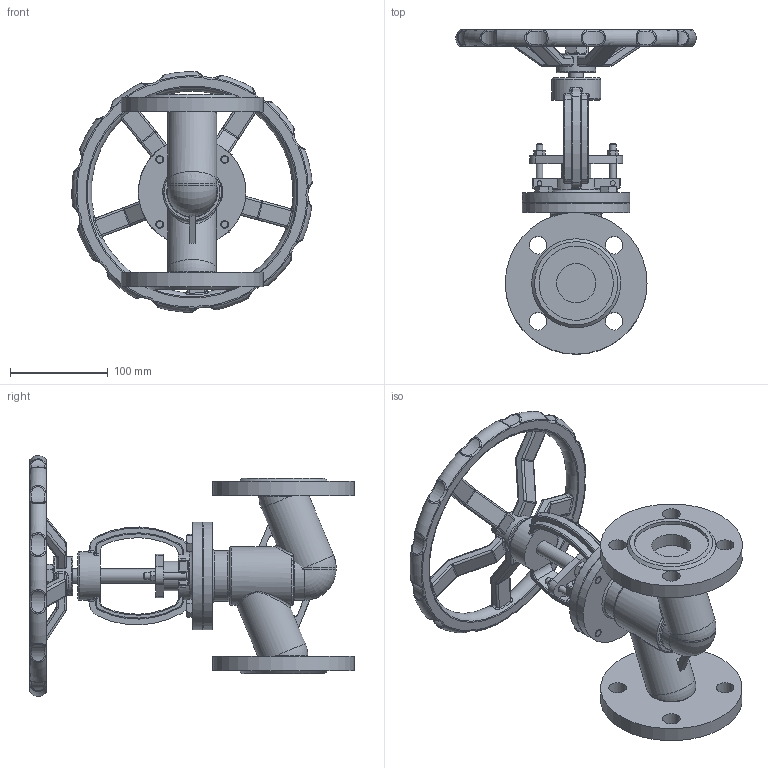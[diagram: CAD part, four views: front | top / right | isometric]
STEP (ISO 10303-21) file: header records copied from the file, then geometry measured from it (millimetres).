
FILE_DESCRIPTION(('STEP AP203'), '1');
FILE_NAME('VSO3131M-F-S 孰囡囗 玎镱痦 DN.ru 捏40 畜40', '2026-04-14T17:46:22', ('R2D2'), (''), 'C3D Converter', 'C3D Toolkit', '');
FILE_SCHEMA(('CONFIG_CONTROL_DESIGN'));
Length unit declared in the file: millimetre
Products named in the file (1): VSO3131M-F-S
Bounding box: 245.86 x 331.92 x 246.25 mm (x, y, z)
Volume: 1650442.5 mm3; surface area: 263963.7 mm2
Topology: 1 solids, 1 shells, 1017 faces, 2439 edges, 1454 vertices
Faces by surface type: plane 292, cylinder 241, torus 150, extrusion 117, bspline 74, sphere 72, cone 71
Full cylindrical faces by diameter (mm): 5 x8, 7 x4, 8 x6, 15 x3, 16 x4, 18 x9, 30 x1, 40 x3, 50 x5, 52 x1, 60 x1, 76 x2, 110 x2, 145 x2
Entity records: 64720 total; most frequent: CARTESIAN_POINT 34302, ORIENTED_EDGE 4680, DIRECTION 4307, EDGE_CURVE 2340, AXIS2_PLACEMENT_3D 1718, VERTEX_POINT 1450, EDGE_LOOP 1186, FACE_BOUND 1070
